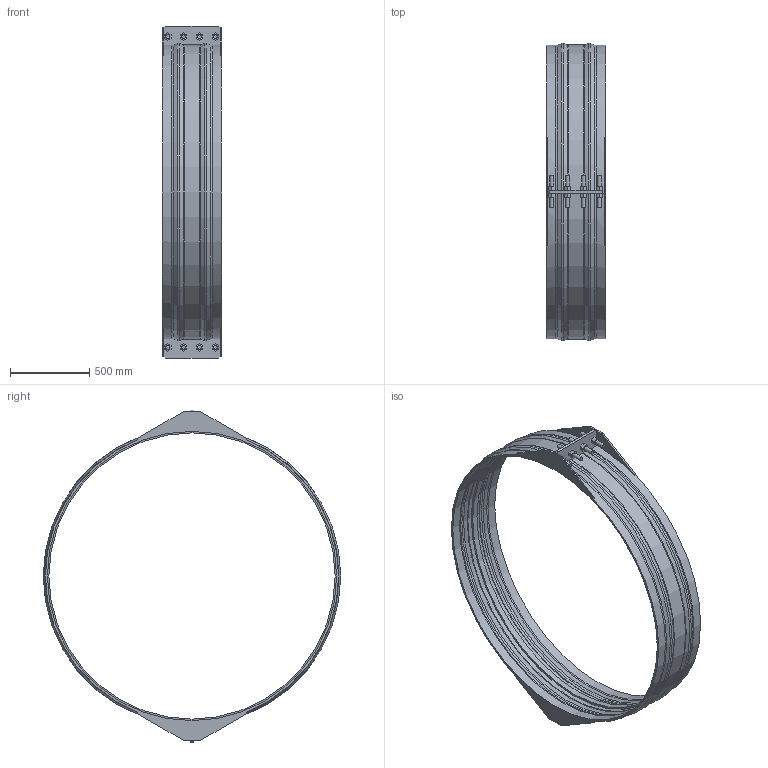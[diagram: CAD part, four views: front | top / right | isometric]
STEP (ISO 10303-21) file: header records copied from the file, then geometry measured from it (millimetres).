
FILE_DESCRIPTION(/* description */ ('VIC RESTRAINED COUPLING STYLE 233 (FLEX) (BRD)','CAx-IF Rec.Pracs.---Representation and Presentation of Product Manufacturing Information (PMI)---4.0---2014-10-13'),/* implementation_level */ '2;1');
FILE_NAME(/* name */ 'C:\Users\Vjadhav\Desktop\CAD for Inventor\Test for STEP\Vivek\Adsk_Inventor_Bolted Sleeve_iParts\STEP\Victaulic_VBSP_Coupling Flexible Restrained_Style 233 (BRD)\Victaulic_VBSP_Coupling Flexible Restrained_Style 233 (BRD)_150psi_72 (1800).stp',/* time_stamp */ '2020-09-24T12:30:56+05:00',/* author */ ('Vjadhav'),/* organization */ ('Victaulic'),/* preprocessor_version */ 'ST-DEVELOPER v17.2',/* originating_system */ 'Autodesk Inventor 2019',/* authorisation */ '');
FILE_SCHEMA (('AP242_MANAGED_MODEL_BASED_3D_ENGINEERING_MIM_LF { 1 0 10303 442 1 1 4 }'));
Length unit declared in the file: inch
Products named in the file (1): Style_233_Type_2_150psi-72.0
Bounding box: 374.65 x 1880.89 x 2099.31 mm (x, y, z)
Volume: 35088917.4 mm3; surface area: 5385272 mm2
Topology: 1 solids, 1 shells, 239 faces, 625 edges, 422 vertices
Faces by surface type: plane 166, cylinder 43, torus 18, cone 12
Full cylindrical faces by diameter (mm): 25.4 x16, 1809.75 x1, 1828.8 x2, 1835.15 x2
Entity records: 7896 total; most frequent: CARTESIAN_POINT 1496, DIRECTION 1259, ORIENTED_EDGE 1250, EDGE_CURVE 625, LINE 449, VECTOR 449, VERTEX_POINT 422, AXIS2_PLACEMENT_3D 405
